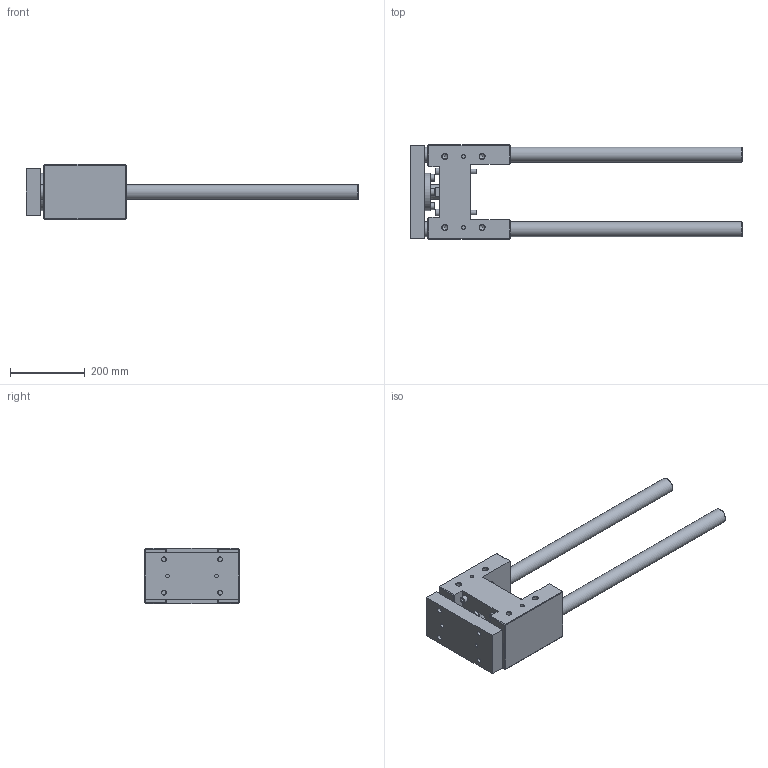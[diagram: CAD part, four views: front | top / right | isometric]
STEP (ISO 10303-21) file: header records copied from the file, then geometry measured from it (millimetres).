
FILE_DESCRIPTION( ( 'STEP AP214' ), '1' );
FILE_NAME( 'U:/Etudes/Top Solid/BIBLIO 3D AVM/TOP/PNEUMATIQUE/GUIDAGES/Type 32 (en H)/S_Lourde/320S9130.step', '2005-05-27T09:32:22', ( ' ' ), ( ' ' ), 'XStep 1.0', ' ', ' ' );
FILE_SCHEMA( ( 'automotive_design' ) );
Length unit declared in the file: metre
Products named in the file (2): 1; 2
Bounding box: 888 x 252 x 148 mm (x, y, z)
Volume: 7841511.9 mm3; surface area: 689191 mm2
Topology: 2 solids, 7 shells, 238 faces, 524 edges, 339 vertices
Faces by surface type: plane 149, cylinder 68, cone 21
Full cylindrical faces by diameter (mm): 10 x4, 10.106 x4, 12 x16, 13 x12, 13.835 x8, 18 x8, 20 x4, 24.835 x1, 39 x1, 40 x4, 42 x1, 57 x1, 60 x2, 65 x1, 100 x1
Entity records: 7905 total; most frequent: CARTESIAN_POINT 1198, DIRECTION 996, ORIENTED_EDGE 784, EDGE_CURVE 392, EDGE_LOOP 390, AXIS2_PLACEMENT_3D 372, FACE_OUTER_BOUND 306, VERTEX_POINT 302
